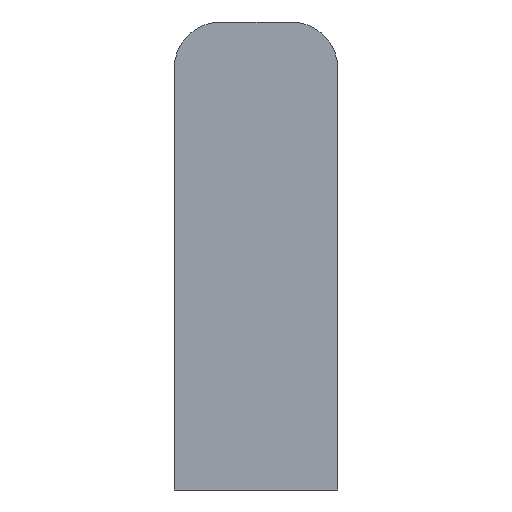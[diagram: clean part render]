
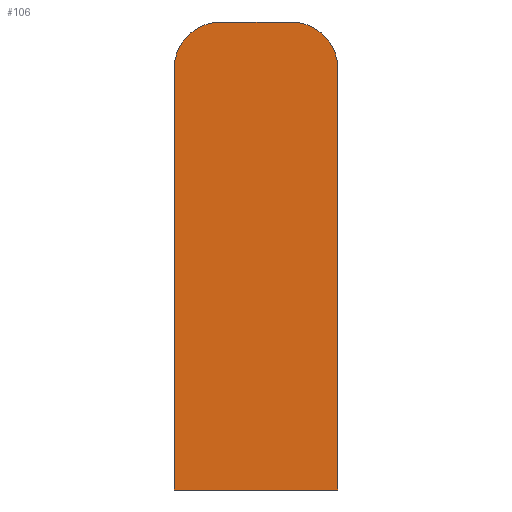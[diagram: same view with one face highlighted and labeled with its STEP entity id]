
A CAD part, front view. The second image highlights one B-rep face of the part: STEP entity #106.
In plain terms, the highlighted planar face has unit normal (0, -1, 0).
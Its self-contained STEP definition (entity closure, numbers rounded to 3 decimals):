
#7 = ORIENTED_EDGE ( 'NONE', *, *, #252, .T. ) ;
#12 = ORIENTED_EDGE ( 'NONE', *, *, #245, .T. ) ;
#13 = ORIENTED_EDGE ( 'NONE', *, *, #256, .T. ) ;
#17 = EDGE_LOOP ( 'NONE', ( #7, #35, #36, #12, #13, #40 ) ) ;
#35 = ORIENTED_EDGE ( 'NONE', *, *, #267, .T. ) ;
#36 = ORIENTED_EDGE ( 'NONE', *, *, #265, .T. ) ;
#40 = ORIENTED_EDGE ( 'NONE', *, *, #233, .T. ) ;
#54 = LINE ( 'NONE', #176, #55 ) ;
#55 = VECTOR ( 'NONE', #177, 1000. ) ;
#60 = CIRCLE ( 'NONE', #268, 3. ) ;
#62 = LINE ( 'NONE', #197, #89 ) ;
#70 = FACE_OUTER_BOUND ( 'NONE', #17, .T. ) ;
#79 = CIRCLE ( 'NONE', #251, 3. ) ;
#89 = VECTOR ( 'NONE', #208, 1000. ) ;
#90 = VECTOR ( 'NONE', #202, 1000. ) ;
#95 = LINE ( 'NONE', #201, #90 ) ;
#97 = VECTOR ( 'NONE', #198, 1000. ) ;
#103 = LINE ( 'NONE', #189, #97 ) ;
#106 = ADVANCED_FACE ( 'NONE', ( #70 ), #140, .F. ) ;
#115 = CARTESIAN_POINT ( 'NONE',  ( 5.25, 0., -16.5 ) ) ;
#118 = VERTEX_POINT ( 'NONE', #165 ) ;
#119 = CARTESIAN_POINT ( 'NONE',  ( 0., 0., -1.5 ) ) ;
#120 = VERTEX_POINT ( 'NONE', #168 ) ;
#126 = VERTEX_POINT ( 'NONE', #115 ) ;
#128 = VERTEX_POINT ( 'NONE', #159 ) ;
#129 = VERTEX_POINT ( 'NONE', #173 ) ;
#132 = VERTEX_POINT ( 'NONE', #166 ) ;
#140 = PLANE ( 'NONE',  #235 ) ;
#141 = DIRECTION ( 'NONE',  ( 0., 1., 0. ) ) ;
#142 = DIRECTION ( 'NONE',  ( -1., 0., 0. ) ) ;
#159 = CARTESIAN_POINT ( 'NONE',  ( -5.25, 0., -16.5 ) ) ;
#165 = CARTESIAN_POINT ( 'NONE',  ( -2.25, 0., 13.5 ) ) ;
#166 = CARTESIAN_POINT ( 'NONE',  ( 5.25, 0., 10.5 ) ) ;
#168 = CARTESIAN_POINT ( 'NONE',  ( 2.25, 0., 13.5 ) ) ;
#173 = CARTESIAN_POINT ( 'NONE',  ( -5.25, 0., 10.5 ) ) ;
#176 = CARTESIAN_POINT ( 'NONE',  ( 5.25, 0., -16.5 ) ) ;
#177 = DIRECTION ( 'NONE',  ( 1., 0., 0. ) ) ;
#186 = CARTESIAN_POINT ( 'NONE',  ( -2.25, 0., 10.5 ) ) ;
#187 = DIRECTION ( 'NONE',  ( 0., -1., 0. ) ) ;
#188 = DIRECTION ( 'NONE',  ( -1., 0., 0. ) ) ;
#189 = CARTESIAN_POINT ( 'NONE',  ( 5.25, 0., -16.5 ) ) ;
#197 = CARTESIAN_POINT ( 'NONE',  ( 2.25, 0., 13.5 ) ) ;
#198 = DIRECTION ( 'NONE',  ( 0., 0., 1. ) ) ;
#201 = CARTESIAN_POINT ( 'NONE',  ( -5.25, 0., -16.5 ) ) ;
#202 = DIRECTION ( 'NONE',  ( 0., 0., -1. ) ) ;
#207 = CARTESIAN_POINT ( 'NONE',  ( 2.25, 0., 10.5 ) ) ;
#208 = DIRECTION ( 'NONE',  ( -1., 0., 0. ) ) ;
#210 = DIRECTION ( 'NONE',  ( 0., -1., 0. ) ) ;
#211 = DIRECTION ( 'NONE',  ( -1., 0., 0. ) ) ;
#233 = EDGE_CURVE ( 'NONE', #128, #126, #54, .T. ) ;
#235 = AXIS2_PLACEMENT_3D ( 'NONE', #119, #141, #142 ) ;
#245 = EDGE_CURVE ( 'NONE', #118, #129, #60, .T. ) ;
#251 = AXIS2_PLACEMENT_3D ( 'NONE', #207, #210, #211 ) ;
#252 = EDGE_CURVE ( 'NONE', #126, #132, #103, .T. ) ;
#256 = EDGE_CURVE ( 'NONE', #129, #128, #95, .T. ) ;
#265 = EDGE_CURVE ( 'NONE', #120, #118, #62, .T. ) ;
#267 = EDGE_CURVE ( 'NONE', #132, #120, #79, .T. ) ;
#268 = AXIS2_PLACEMENT_3D ( 'NONE', #186, #187, #188 ) ;
